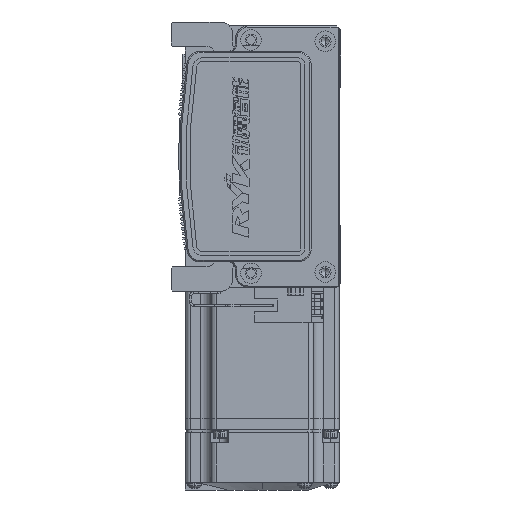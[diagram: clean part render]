
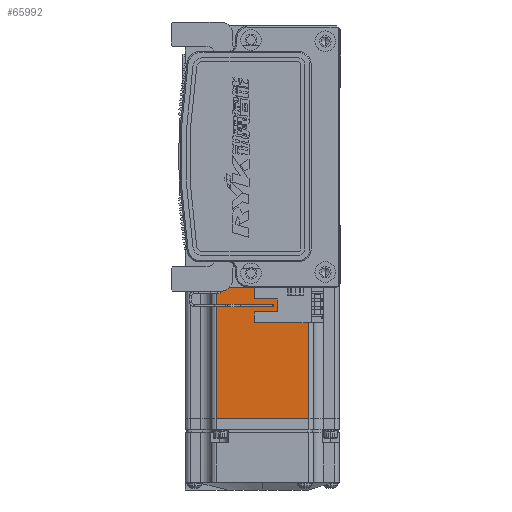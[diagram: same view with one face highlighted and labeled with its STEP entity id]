
A CAD part, left-side view. The second image highlights one B-rep face of the part: STEP entity #65992.
In plain terms, the highlighted planar face has unit normal (-1, 0, 0) as drawn and (0, 0, 1) by its records, which use the part's own axes.
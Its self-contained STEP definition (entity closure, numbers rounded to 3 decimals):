
#2497 = CARTESIAN_POINT ( 'NONE',  ( -7.75, 0., 30. ) ) ;
#5640 = AXIS2_PLACEMENT_3D ( 'NONE', #65994, #38365, #43717 ) ;
#6173 = ORIENTED_EDGE ( 'NONE', *, *, #36671, .F. ) ;
#8754 = VECTOR ( 'NONE', #20018, 1000. ) ;
#10914 = ORIENTED_EDGE ( 'NONE', *, *, #63708, .T. ) ;
#14159 = CARTESIAN_POINT ( 'NONE',  ( -6.5, -18., 30. ) ) ;
#17442 = CARTESIAN_POINT ( 'NONE',  ( -7.75, 18., 30. ) ) ;
#17702 = PLANE ( 'NONE',  #5640 ) ;
#20018 = DIRECTION ( 'NONE',  ( 0., -1., 0. ) ) ;
#20506 = EDGE_CURVE ( 'NONE', #36101, #58970, #24718, .T. ) ;
#20649 = VECTOR ( 'NONE', #60837, 1000. ) ;
#24011 = LINE ( 'NONE', #42853, #45595 ) ;
#24718 = LINE ( 'NONE', #14159, #66280 ) ;
#26260 = CARTESIAN_POINT ( 'NONE',  ( -70.95, 18., 30. ) ) ;
#30378 = FACE_OUTER_BOUND ( 'NONE', #53102, .T. ) ;
#30519 = CARTESIAN_POINT ( 'NONE',  ( -70.95, -18., 30. ) ) ;
#31642 = EDGE_CURVE ( 'NONE', #48051, #58970, #67717, .T. ) ;
#32408 = VERTEX_POINT ( 'NONE', #17442 ) ;
#33122 = ORIENTED_EDGE ( 'NONE', *, *, #31642, .T. ) ;
#36101 = VERTEX_POINT ( 'NONE', #50942 ) ;
#36671 = EDGE_CURVE ( 'NONE', #32408, #36101, #55580, .T. ) ;
#38365 = DIRECTION ( 'NONE',  ( 0., 0., 1. ) ) ;
#42853 = CARTESIAN_POINT ( 'NONE',  ( -6.5, 18., 30. ) ) ;
#43303 = DIRECTION ( 'NONE',  ( -1., 0., 0. ) ) ;
#43717 = DIRECTION ( 'NONE',  ( 1., 0., 0. ) ) ;
#45595 = VECTOR ( 'NONE', #43303, 1000. ) ;
#45766 = DIRECTION ( 'NONE',  ( -1., 0., 0. ) ) ;
#47405 = CARTESIAN_POINT ( 'NONE',  ( -70.95, 0., 30. ) ) ;
#48051 = VERTEX_POINT ( 'NONE', #26260 ) ;
#50942 = CARTESIAN_POINT ( 'NONE',  ( -7.75, -18., 30. ) ) ;
#53102 = EDGE_LOOP ( 'NONE', ( #6173, #10914, #33122, #63865 ) ) ;
#55580 = LINE ( 'NONE', #2497, #20649 ) ;
#58970 = VERTEX_POINT ( 'NONE', #30519 ) ;
#60837 = DIRECTION ( 'NONE',  ( 0., -1., 0. ) ) ;
#63708 = EDGE_CURVE ( 'NONE', #32408, #48051, #24011, .T. ) ;
#63865 = ORIENTED_EDGE ( 'NONE', *, *, #20506, .F. ) ;
#65992 = ADVANCED_FACE ( 'NONE', ( #30378 ), #17702, .T. ) ;
#65994 = CARTESIAN_POINT ( 'NONE',  ( -6.5, -25., 30. ) ) ;
#66280 = VECTOR ( 'NONE', #45766, 1000. ) ;
#67717 = LINE ( 'NONE', #47405, #8754 ) ;
